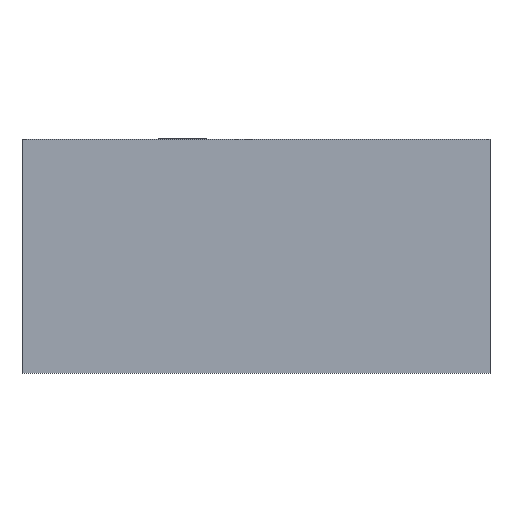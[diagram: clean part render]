
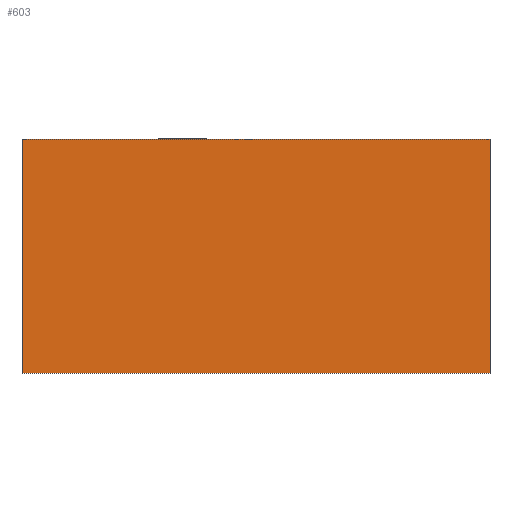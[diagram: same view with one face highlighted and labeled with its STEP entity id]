
A CAD part, front view. The second image highlights one B-rep face of the part: STEP entity #603.
In plain terms, the highlighted free-form (B-spline) face has degree [3, 1] with [4, 2] control points.
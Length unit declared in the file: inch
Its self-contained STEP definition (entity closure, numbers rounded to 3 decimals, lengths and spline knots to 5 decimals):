
#560=CARTESIAN_POINT('',(0.0,0.0,-3.0));
#561=CARTESIAN_POINT('',(1.5,0.0,-3.0));
#562=CARTESIAN_POINT('',(4.5,0.0,-3.0));
#563=CARTESIAN_POINT('',(6.0,0.0,-3.0));
#564=CARTESIAN_POINT('',(0.0,0.0,0.0));
#565=CARTESIAN_POINT('',(1.5,0.0,0.0));
#566=CARTESIAN_POINT('',(4.5,0.0,0.0));
#567=CARTESIAN_POINT('',(6.0,0.0,0.0));
#568=QUASI_UNIFORM_SURFACE('',3,1,((#560,#564),(#561,#565),(#562,#566),(#563,#567)),.UNSPECIFIED.,.F.,.F.,.U.);
#569=CARTESIAN_POINT(' SURFACE',(0.0,0.0,-3.0));
#570=VERTEX_POINT(' SURFACE',#569);
#571=CARTESIAN_POINT(' SURFACE',(6.0,0.0,-3.0));
#572=VERTEX_POINT(' SURFACE',#571);
#573=CARTESIAN_POINT('',(0.0,0.0,-3.0));
#574=CARTESIAN_POINT('',(1.5,0.0,-3.0));
#575=CARTESIAN_POINT('',(4.5,0.0,-3.0));
#576=CARTESIAN_POINT('',(6.0,0.0,-3.0));
#577=QUASI_UNIFORM_CURVE('',3,(#573,#574,#575,#576),.UNSPECIFIED.,.F.,.U.);
#578=EDGE_CURVE(' SURFACE',#570,#572,#577,.T.);
#579=ORIENTED_EDGE(' SURFACE',*,*,#578,.T.);
#580=CARTESIAN_POINT(' SURFACE',(6.0,0.0,0.0));
#581=VERTEX_POINT(' SURFACE',#580);
#582=CARTESIAN_POINT('',(6.0,0.0,-3.0));
#583=CARTESIAN_POINT('',(6.0,0.0,0.0));
#584=QUASI_UNIFORM_CURVE('',1,(#582,#583),.UNSPECIFIED.,.F.,.U.);
#585=EDGE_CURVE(' SURFACE',#572,#581,#584,.T.);
#586=ORIENTED_EDGE(' SURFACE',*,*,#585,.T.);
#587=CARTESIAN_POINT(' SURFACE',(0.0,0.0,0.0));
#588=VERTEX_POINT(' SURFACE',#587);
#589=CARTESIAN_POINT('',(6.0,0.0,0.0));
#590=CARTESIAN_POINT('',(4.5,0.0,0.0));
#591=CARTESIAN_POINT('',(1.5,0.0,0.0));
#592=CARTESIAN_POINT('',(0.0,0.0,0.0));
#593=QUASI_UNIFORM_CURVE('',3,(#589,#590,#591,#592),.UNSPECIFIED.,.F.,.U.);
#594=EDGE_CURVE(' SURFACE',#581,#588,#593,.T.);
#595=ORIENTED_EDGE(' SURFACE',*,*,#594,.T.);
#596=CARTESIAN_POINT('',(0.0,0.0,0.0));
#597=CARTESIAN_POINT('',(0.0,0.0,-3.0));
#598=QUASI_UNIFORM_CURVE('',1,(#596,#597),.UNSPECIFIED.,.F.,.U.);
#599=EDGE_CURVE(' SURFACE',#588,#570,#598,.T.);
#600=ORIENTED_EDGE(' SURFACE',*,*,#599,.T.);
#601=EDGE_LOOP(' SURFACE',(#579,#586,#595,#600));
#602=FACE_OUTER_BOUND(' SURFACE',#601,.T.);
#603=ADVANCED_FACE(' SURFACE',(#602),#568,.T.);
